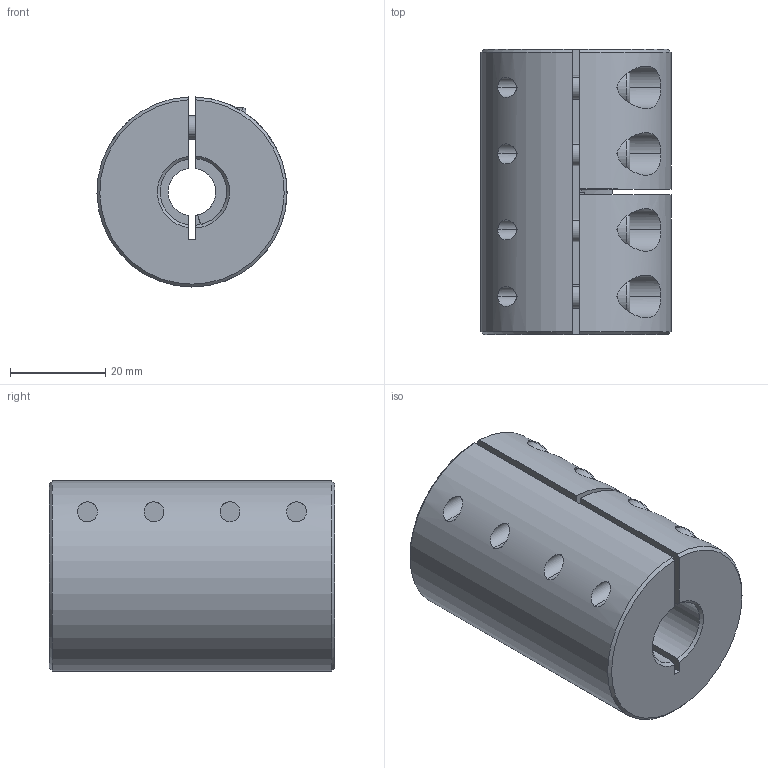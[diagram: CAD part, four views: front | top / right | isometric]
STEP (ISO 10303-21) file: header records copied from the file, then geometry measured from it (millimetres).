
FILE_DESCRIPTION (( 'STEP AP214' ), '1' );
FILE_NAME ('LL-B-D40L60-10-14½¨Ä£.STEP', '2022-07-22T00:53:07', ( '' ), ( '' ), 'SwSTEP 2.0', 'SolidWorks 2022', '' );
FILE_SCHEMA (( 'AUTOMOTIVE_DESIGN' ));
Length unit declared in the file: millimetre
Products named in the file (1): LL-B-D40L60-10-14膘耀
Bounding box: 40 x 60 x 39.99 mm (x, y, z)
Volume: 64728.1 mm3; surface area: 17519.9 mm2
Topology: 1 solids, 1 shells, 182 faces, 463 edges, 291 vertices
Faces by surface type: plane 88, cylinder 71, cone 15, torus 8
Entity records: 6015 total; most frequent: CARTESIAN_POINT 1525, DIRECTION 971, ORIENTED_EDGE 910, EDGE_CURVE 455, AXIS2_PLACEMENT_3D 377, VERTEX_POINT 291, LINE 217, VECTOR 217
